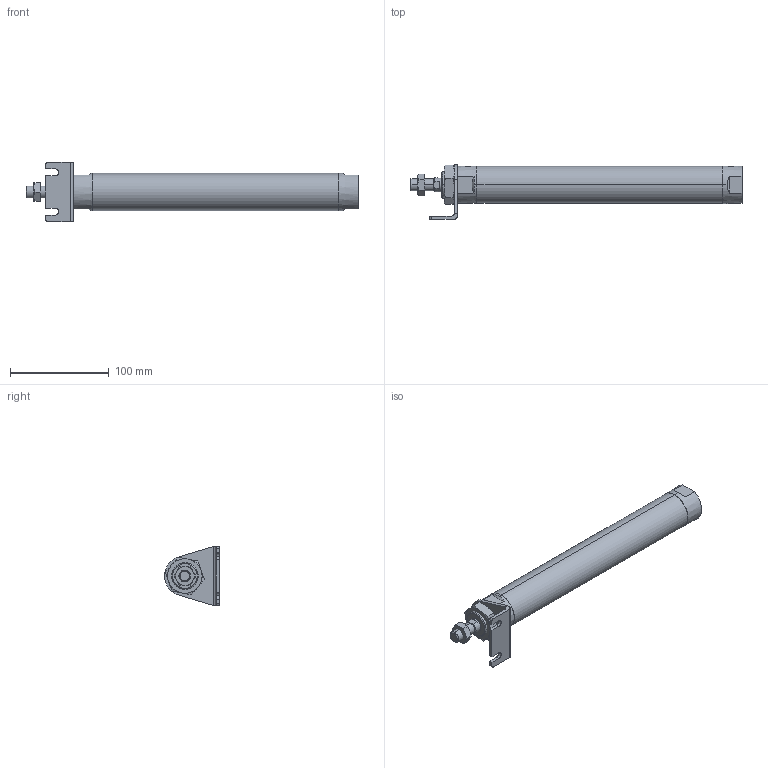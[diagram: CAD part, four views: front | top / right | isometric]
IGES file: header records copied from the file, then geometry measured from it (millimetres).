
Start section: SolidWorks IGES file using analytic representation for surfaces
Global section: file name: C:\Users\Toshiba\Desktop\JGND2-32-200-L.IGS; native system: SolidWorks 2014; preprocessor: SolidWorks 2014; author: Toshiba; date: 160804.105614; units: millimetre
Bounding box: 337 x 55.5 x 60 mm (x, y, z)
Surface area: 51934.8 mm2 (no closed solid volume)
Topology: 0 solids, 0 shells, 116 faces, 1918 edges, 1914 vertices
Faces by surface type: bspline 71, revolution 45
